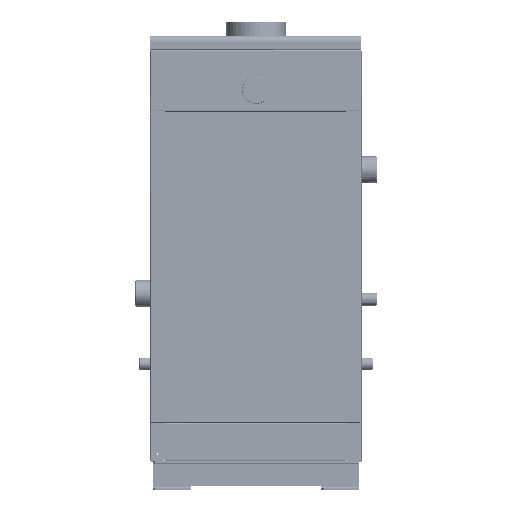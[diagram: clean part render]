
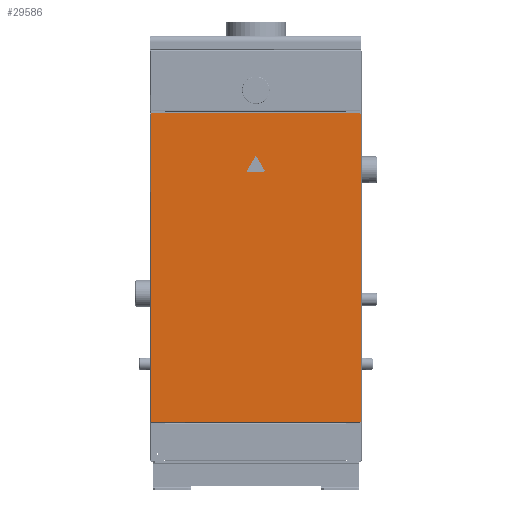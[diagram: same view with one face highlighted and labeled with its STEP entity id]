
A CAD part, top view. The second image highlights one B-rep face of the part: STEP entity #29586.
In plain terms, the highlighted planar face has unit normal (0, 0, 1) as drawn and (0, 0, -1) by its records, which use the part's own axes.
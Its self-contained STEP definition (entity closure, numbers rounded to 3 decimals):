
#29586=ADVANCED_FACE('',(#74932),#74934,.F.);
#74932=FACE_BOUND('',#74933,.T.);
#74933=EDGE_LOOP('',(#102519,#102520,#102521,#102522,#102523,#102524,#102525,#102526));
#74934=PLANE('',#74935);
#74935=AXIS2_PLACEMENT_3D('',#74936,#74937,#74938);
#74936=CARTESIAN_POINT('',(0.,0.,0.));
#74937=DIRECTION('',(0.,0.,1.));
#74938=DIRECTION('',(1.,0.,0.));
#102519=ORIENTED_EDGE('',*,*,#115482,.F.);
#102520=ORIENTED_EDGE('',*,*,#115460,.T.);
#102521=ORIENTED_EDGE('',*,*,#115483,.F.);
#102522=ORIENTED_EDGE('',*,*,#115465,.T.);
#102523=ORIENTED_EDGE('',*,*,#115484,.F.);
#102524=ORIENTED_EDGE('',*,*,#115472,.T.);
#102525=ORIENTED_EDGE('',*,*,#115485,.F.);
#102526=ORIENTED_EDGE('',*,*,#115477,.T.);
#115460=EDGE_CURVE('',#135658,#135660,#135662,.T.);
#115465=EDGE_CURVE('',#135670,#135668,#135671,.T.);
#115472=EDGE_CURVE('',#135678,#135680,#135682,.T.);
#115477=EDGE_CURVE('',#135690,#135688,#135691,.T.);
#115482=EDGE_CURVE('',#135658,#135688,#135698,.T.);
#115483=EDGE_CURVE('',#135670,#135660,#135699,.T.);
#115484=EDGE_CURVE('',#135678,#135668,#135700,.T.);
#115485=EDGE_CURVE('',#135690,#135680,#135701,.T.);
#135658=VERTEX_POINT('',#229986);
#135660=VERTEX_POINT('',#229990);
#135662=CIRCLE('',#229994,1.5);
#135668=VERTEX_POINT('',#230041);
#135670=VERTEX_POINT('',#230045);
#135671=CIRCLE('',#230046,1.5);
#135678=VERTEX_POINT('',#230096);
#135680=VERTEX_POINT('',#230100);
#135682=CIRCLE('',#230104,1.5);
#135688=VERTEX_POINT('',#230151);
#135690=VERTEX_POINT('',#230155);
#135691=CIRCLE('',#230156,1.5);
#135698=LINE('',#230206,#230207);
#135699=LINE('',#230209,#230210);
#135700=LINE('',#230212,#230213);
#135701=LINE('',#230215,#230216);
#229986=CARTESIAN_POINT('',(-220.382,69.9,0.));
#229990=CARTESIAN_POINT('',(-220.5,70.018,0.));
#229994=AXIS2_PLACEMENT_3D('',#229995,#229996,#229997);
#229995=CARTESIAN_POINT('',(-221.5,68.9,0.));
#229996=DIRECTION('',(0.,0.,1.));
#229997=DIRECTION('',(0.745,0.667,0.));
#230041=CARTESIAN_POINT('',(-220.382,719.4,0.));
#230045=CARTESIAN_POINT('',(-220.5,719.282,0.));
#230046=AXIS2_PLACEMENT_3D('',#230047,#230048,#230049);
#230047=CARTESIAN_POINT('',(-221.5,720.4,0.));
#230048=DIRECTION('',(0.,0.,1.));
#230049=DIRECTION('',(0.667,-0.745,0.));
#230096=CARTESIAN_POINT('',(220.382,719.4,0.));
#230100=CARTESIAN_POINT('',(220.5,719.282,0.));
#230104=AXIS2_PLACEMENT_3D('',#230105,#230106,#230107);
#230105=CARTESIAN_POINT('',(221.5,720.4,0.));
#230106=DIRECTION('',(0.,0.,1.));
#230107=DIRECTION('',(-0.745,-0.667,0.));
#230151=CARTESIAN_POINT('',(220.382,69.9,0.));
#230155=CARTESIAN_POINT('',(220.5,70.018,0.));
#230156=AXIS2_PLACEMENT_3D('',#230157,#230158,#230159);
#230157=CARTESIAN_POINT('',(221.5,68.9,0.));
#230158=DIRECTION('',(0.,0.,1.));
#230159=DIRECTION('',(-0.667,0.745,0.));
#230206=CARTESIAN_POINT('',(-220.382,69.9,0.));
#230207=VECTOR('',#230208,1.);
#230208=DIRECTION('',(1.,0.,0.));
#230209=CARTESIAN_POINT('',(-220.5,719.282,0.));
#230210=VECTOR('',#230211,1.);
#230211=DIRECTION('',(0.,-1.,0.));
#230212=CARTESIAN_POINT('',(220.382,719.4,0.));
#230213=VECTOR('',#230214,1.);
#230214=DIRECTION('',(-1.,0.,0.));
#230215=CARTESIAN_POINT('',(220.5,70.018,0.));
#230216=VECTOR('',#230217,1.);
#230217=DIRECTION('',(0.,1.,0.));
